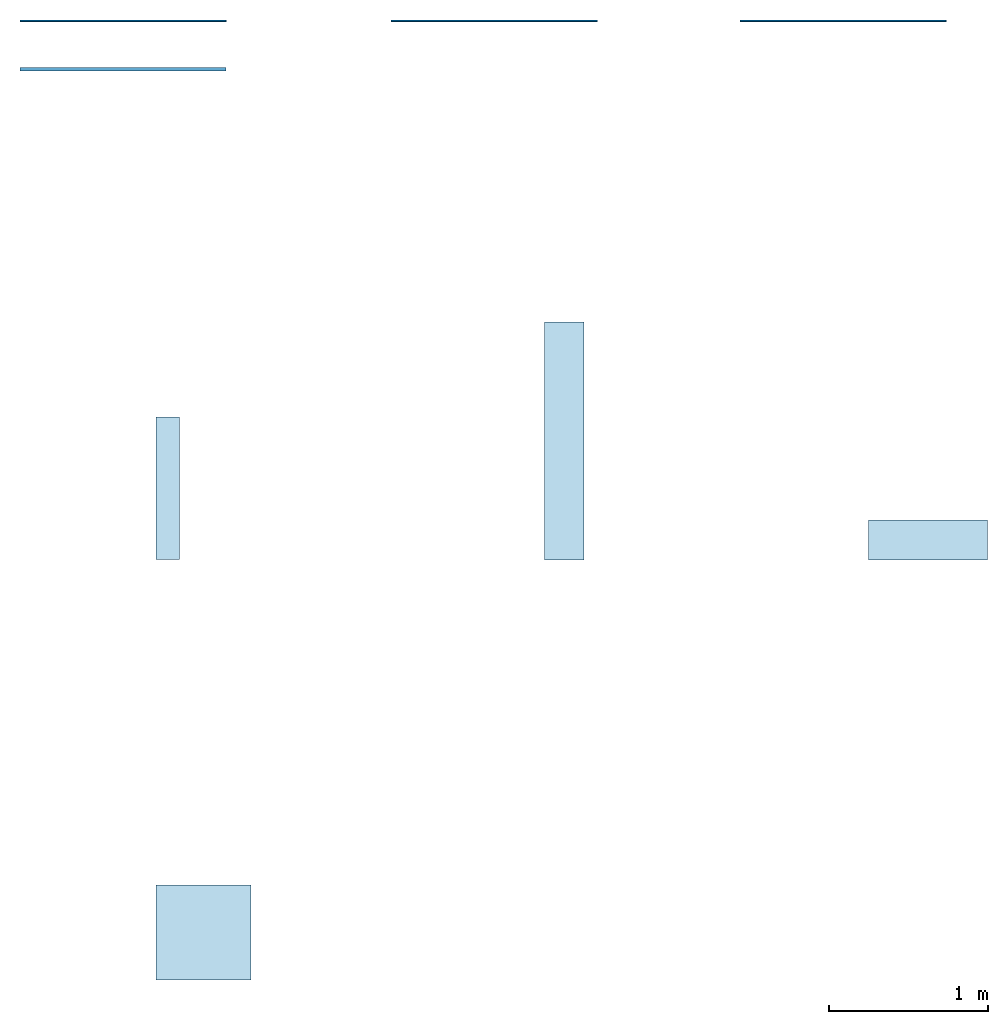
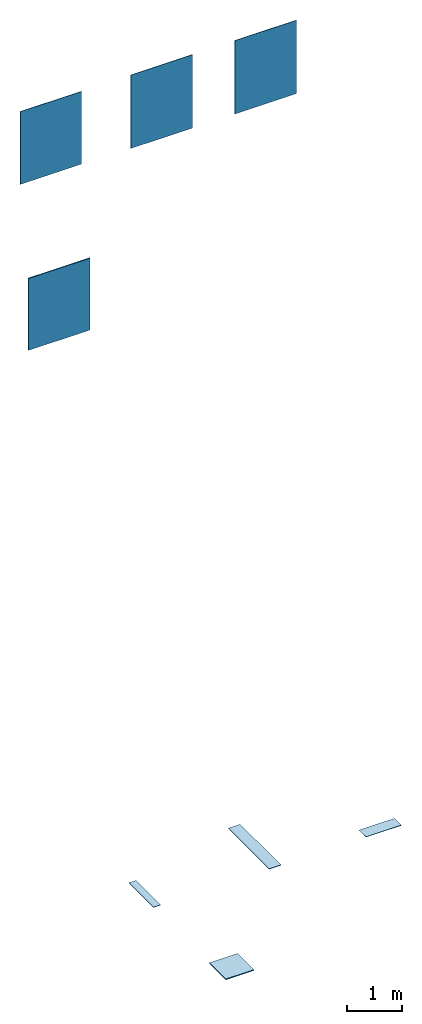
# One storey: 4 slabs, 4 walls.
"""IFC2X3 building model written with IfcOpenShell, lengths in millimetres."""

from ifc_helpers import new_model, entity, si_unit, converted_unit, derived_unit, direction, frame, frame_2d, origin, place, context, subcontext, project, spatial, rectangle, extrude, material, layer, layer_set, layer_usage, type_object, element, save


model = new_model("IFC2X3")

# Units and contexts
model_context = context("Model", 3, precision=0.01, world=origin(), true_north=direction((6.12303176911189e-17, 1.0)))
body_context = subcontext(model_context, "Body", "Model", "MODEL_VIEW")
ifc_project = project(units=[si_unit("LENGTHUNIT", "METRE", prefix="MILLI"), si_unit("AREAUNIT", "SQUARE_METRE"), si_unit("VOLUMEUNIT", "CUBIC_METRE"), converted_unit("PLANEANGLEUNIT", "DEGREE", entity("IfcRatioMeasure", 0.0174532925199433), si_unit("PLANEANGLEUNIT", "RADIAN"), dimensions=[0, 0, 0, 0, 0, 0, 0]), si_unit("MASSUNIT", "GRAM", prefix="KILO"), derived_unit("MASSDENSITYUNIT", [(si_unit("MASSUNIT", "GRAM", prefix="KILO"), 1), (si_unit("LENGTHUNIT", "METRE"), -3)]), derived_unit("MOMENTOFINERTIAUNIT", [(si_unit("LENGTHUNIT", "METRE"), 4)]), si_unit("TIMEUNIT", "SECOND"), si_unit("FREQUENCYUNIT", "HERTZ"), si_unit("THERMODYNAMICTEMPERATUREUNIT", "DEGREE_CELSIUS"), derived_unit("THERMALTRANSMITTANCEUNIT", [(si_unit("MASSUNIT", "GRAM", prefix="KILO"), 1), (si_unit("THERMODYNAMICTEMPERATUREUNIT", "KELVIN"), -1), (si_unit("TIMEUNIT", "SECOND"), -3)]), derived_unit("VOLUMETRICFLOWRATEUNIT", [(si_unit("LENGTHUNIT", "METRE"), 3), (si_unit("TIMEUNIT", "SECOND"), -1)]), si_unit("ELECTRICCURRENTUNIT", "AMPERE"), si_unit("ELECTRICVOLTAGEUNIT", "VOLT"), si_unit("POWERUNIT", "WATT"), si_unit("FORCEUNIT", "NEWTON", prefix="KILO"), si_unit("ILLUMINANCEUNIT", "LUX"), si_unit("LUMINOUSFLUXUNIT", "LUMEN"), si_unit("LUMINOUSINTENSITYUNIT", "CANDELA"), derived_unit("USERDEFINED", [(si_unit("MASSUNIT", "GRAM", prefix="KILO"), -1), (si_unit("LENGTHUNIT", "METRE"), -2), (si_unit("TIMEUNIT", "SECOND"), 3), (si_unit("LUMINOUSFLUXUNIT", "LUMEN"), 1)]), derived_unit("LINEARVELOCITYUNIT", [(si_unit("LENGTHUNIT", "METRE"), 1), (si_unit("TIMEUNIT", "SECOND"), -1)]), si_unit("PRESSUREUNIT", "PASCAL"), derived_unit("USERDEFINED", [(si_unit("LENGTHUNIT", "METRE"), -2), (si_unit("MASSUNIT", "GRAM", prefix="KILO"), 1), (si_unit("TIMEUNIT", "SECOND"), -2)]), derived_unit("LINEARFORCEUNIT", [(si_unit("MASSUNIT", "GRAM", prefix="KILO"), 1), (si_unit("LENGTHUNIT", "METRE"), 1), (si_unit("TIMEUNIT", "SECOND"), -2), (si_unit("LENGTHUNIT", "METRE"), -1)]), derived_unit("PLANARFORCEUNIT", [(si_unit("MASSUNIT", "GRAM", prefix="KILO"), 1), (si_unit("LENGTHUNIT", "METRE"), 1), (si_unit("TIMEUNIT", "SECOND"), -2), (si_unit("LENGTHUNIT", "METRE"), -2)])], contexts=[model_context])

# Site, building, storey
site_placement = place(None, origin())
site = spatial("IfcSite", under=ifc_project, at=site_placement, Name="Default", CompositionType="ELEMENT")
building_placement = place(site_placement, origin())
building = spatial("IfcBuilding", under=site, at=building_placement, CompositionType="ELEMENT")
storey_placement = place(building_placement, origin())
storey = spatial("IfcBuildingStorey", under=building, at=storey_placement, Name="Level 0", CompositionType="ELEMENT", Elevation=0.0)

# Slabs
ifc_material_1 = material(Name="Larix-Shade-15x90 OB53")
ifc_layer_1 = layer(ifc_material_1, 9.0)
ifc_material_2 = material(Name="<Unnamed>")
ifc_layer_2 = layer(ifc_material_2, 1.0)
ifc_layer_set_1 = layer_set([ifc_layer_1, ifc_layer_2], Name="Floor:Floor_Tiles_Refin-Larix-Shade-15x90 OB53")
ifc_layer_usage_1 = layer_usage(ifc_layer_set_1, "AXIS3", "POSITIVE", 0.0)
slab_type_1 = type_object("IfcSlabType", Name="Floor:Floor_Tiles_Refin-Larix-Shade-15x90 OB53", PredefinedType="FLOOR", material=ifc_layer_set_1)
slab_1_placement = place(storey_placement, origin())
element("IfcSlab", 1, at=slab_1_placement, inside=storey, type_object=slab_type_1, material=ifc_layer_usage_1, Name="Floor:Floor_Tiles_Refin-Larix-Shade-15x90 OB53", ObjectType="Floor:Floor_Tiles_Refin-Larix-Shade-15x90 OB53", PredefinedType="FLOOR", context=body_context, shape_type="SweptSolid", body=[
    extrude(rectangle(XDim=900.0, YDim=150.000000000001, at=frame_2d((5.40012479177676e-13, 0.0), x_axis=(1.0, 0.0))), frame((6849.37520617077, 5189.4623742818, 0.0), z_axis=(0.0, 0.0, -1.0), x_axis=(0.0, 1.0, 0.0)), (0.0, 0.0, 1.0), 10.0),
])
ifc_material_3 = material(Name="Larix-Shade-25x150 LE11")
ifc_layer_3 = layer(ifc_material_3, 9.0)
ifc_layer_4 = layer(ifc_material_2, 1.0)
ifc_layer_set_2 = layer_set([ifc_layer_3, ifc_layer_4], Name="Floor:Floor_Tiles_Refin-Larix-Shade-25x150 LE11")
ifc_layer_usage_2 = layer_usage(ifc_layer_set_2, "AXIS3", "POSITIVE", 0.0)
slab_type_2 = type_object("IfcSlabType", Name="Floor:Floor_Tiles_Refin-Larix-Shade-25x150 LE11", PredefinedType="FLOOR", material=ifc_layer_set_2)
slab_2_placement = place(storey_placement, origin())
element("IfcSlab", 2, at=slab_2_placement, inside=storey, type_object=slab_type_2, material=ifc_layer_usage_2, Name="Floor:Floor_Tiles_Refin-Larix-Shade-25x150 LE11", ObjectType="Floor:Floor_Tiles_Refin-Larix-Shade-25x150 LE11", PredefinedType="FLOOR", context=body_context, shape_type="SweptSolid", body=[
    extrude(rectangle(XDim=1500.0, YDim=249.999999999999, at=frame_2d((-5.11590769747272e-13, 0.0), x_axis=(1.0, 0.0))), frame((9349.37520617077, 5488.41920639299, 0.0), z_axis=(0.0, 0.0, -1.0), x_axis=(0.0, 1.0, 0.0)), (0.0, 0.0, 1.0), 10.0),
])
ifc_material_4 = material(Name="Larix-Shade-Muretto-25x75 LF54")
ifc_layer_5 = layer(ifc_material_4, 9.0)
ifc_layer_6 = layer(ifc_material_2, 1.0)
ifc_layer_set_3 = layer_set([ifc_layer_5, ifc_layer_6], Name="Floor:Floor_Tiles_Refin-Larix-Shade-Muretto-25x75 LF54")
ifc_layer_usage_3 = layer_usage(ifc_layer_set_3, "AXIS3", "POSITIVE", 0.0)
slab_type_3 = type_object("IfcSlabType", Name="Floor:Floor_Tiles_Refin-Larix-Shade-Muretto-25x75 LF54", PredefinedType="FLOOR", material=ifc_layer_set_3)
slab_3_placement = place(storey_placement, origin())
element("IfcSlab", 3, at=slab_3_placement, inside=storey, type_object=slab_type_3, material=ifc_layer_usage_3, Name="Floor:Floor_Tiles_Refin-Larix-Shade-Muretto-25x75 LF54", ObjectType="Floor:Floor_Tiles_Refin-Larix-Shade-Muretto-25x75 LF54", PredefinedType="FLOOR", context=body_context, shape_type="SweptSolid", body=[
    extrude(rectangle(XDim=250.000000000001, YDim=750.000000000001, at=frame_2d((-5.40012479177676e-13, -1.08002495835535e-12), x_axis=(1.0, 0.0))), frame((11642.3924054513, 4863.41920639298, 0.0), z_axis=(0.0, 0.0, -1.0), x_axis=(0.0, 1.0, 0.0)), (0.0, 0.0, 1.0), 10.0),
])
ifc_material_5 = material(Name="Larix-Shade-OUT2.0-60x60 LQ03")
ifc_layer_7 = layer(ifc_material_5, 20.0)
ifc_layer_8 = layer(ifc_material_2, 1.0)
ifc_layer_set_4 = layer_set([ifc_layer_7, ifc_layer_8], Name="Floor:Floor_Tiles_Refin-Larix-Shade-OUT2.0-60x60 LQ03")
ifc_layer_usage_4 = layer_usage(ifc_layer_set_4, "AXIS3", "POSITIVE", 0.0)
slab_type_4 = type_object("IfcSlabType", Name="Floor:Floor_Tiles_Refin-Larix-Shade-OUT2.0-60x60 LQ03", PredefinedType="FLOOR", material=ifc_layer_set_4)
slab_4_placement = place(storey_placement, origin())
element("IfcSlab", 4, at=slab_4_placement, inside=storey, type_object=slab_type_4, material=ifc_layer_usage_4, Name="Floor:Floor_Tiles_Refin-Larix-Shade-OUT2.0-60x60 LQ03", ObjectType="Floor:Floor_Tiles_Refin-Larix-Shade-OUT2.0-60x60 LQ03", PredefinedType="FLOOR", context=body_context, shape_type="SweptSolid", body=[
    extrude(rectangle(XDim=600.0, YDim=600.0, at=frame_2d((0.0, 1.08002495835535e-12), x_axis=(1.0, 0.0))), frame((7074.37520617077, 2389.46237428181, 0.0), z_axis=(0.0, 0.0, -1.0), x_axis=(0.0, 1.0, 0.0)), (0.0, 0.0, 1.0), 21.0),
])

# Walls
ifc_layer_9 = layer(ifc_material_2, 1.0)
ifc_layer_10 = layer(ifc_material_3, 9.0)
ifc_layer_set_5 = layer_set([ifc_layer_9, ifc_layer_10], Name="Basic Wall:Wall_Tiles_Refin-Larix-Shade-25x150 LE11")
ifc_layer_usage_5 = layer_usage(ifc_layer_set_5, "AXIS2", "NEGATIVE", 5.0)
wall_type_1 = type_object("IfcWallType", Name="Basic Wall:Wall_Tiles_Refin-Larix-Shade-25x150 LE11", PredefinedType="STANDARD", material=ifc_layer_set_5)
wall_1_placement = place(storey_placement, frame((8257.37520617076, 8137.38386313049, 14387.6770443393)))
element("IfcWallStandardCase", 5, at=wall_1_placement, inside=storey, type_object=wall_type_1, material=ifc_layer_usage_5, Name="Basic Wall:Wall_Tiles_Refin-Larix-Shade-25x150 LE11", ObjectType="Basic Wall:Wall_Tiles_Refin-Larix-Shade-25x150 LE11", context=body_context, shape_type="SweptSolid", body=[
    extrude(rectangle(XDim=1300.0, YDim=9.99999999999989, at=frame_2d((650.0, 7.63833440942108e-14), x_axis=(-1.0, 0.0))), origin(), (0.0, 0.0, 1.0), 1641.74173522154),
])
ifc_layer_11 = layer(ifc_material_2, 1.0)
ifc_layer_12 = layer(ifc_material_4, 9.0)
ifc_layer_set_6 = layer_set([ifc_layer_11, ifc_layer_12], Name="Basic Wall:Wall_Tiles_Refin-Larix-Shade-Muretto-25x75 LF54")
ifc_layer_usage_6 = layer_usage(ifc_layer_set_6, "AXIS2", "NEGATIVE", 5.0)
wall_type_2 = type_object("IfcWallType", Name="Basic Wall:Wall_Tiles_Refin-Larix-Shade-Muretto-25x75 LF54", PredefinedType="STANDARD", material=ifc_layer_set_6)
wall_2_placement = place(storey_placement, frame((10457.3752061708, 8137.38386313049, 14387.6770443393)))
element("IfcWallStandardCase", 6, at=wall_2_placement, inside=storey, type_object=wall_type_2, material=ifc_layer_usage_6, Name="Basic Wall:Wall_Tiles_Refin-Larix-Shade-Muretto-25x75 LF54", ObjectType="Basic Wall:Wall_Tiles_Refin-Larix-Shade-Muretto-25x75 LF54", context=body_context, shape_type="SweptSolid", body=[
    extrude(rectangle(XDim=1300.0, YDim=9.99999999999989, at=frame_2d((650.0, 7.63833440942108e-14), x_axis=(-1.0, 0.0))), origin(), (0.0, 0.0, 1.0), 1641.74173522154),
])
ifc_layer_13 = layer(ifc_material_2, 1.0)
ifc_layer_14 = layer(ifc_material_1, 9.0)
ifc_layer_set_7 = layer_set([ifc_layer_13, ifc_layer_14], Name="Basic Wall:Wall_Tiles_Refin-Larix-Shade-15x90 OB53")
ifc_layer_usage_7 = layer_usage(ifc_layer_set_7, "AXIS2", "NEGATIVE", 5.0)
wall_type_3 = type_object("IfcWallType", Name="Basic Wall:Wall_Tiles_Refin-Larix-Shade-15x90 OB53", PredefinedType="STANDARD", material=ifc_layer_set_7)
wall_3_placement = place(storey_placement, frame((5917.37520617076, 8137.38386313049, 14403.726734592)))
element("IfcWallStandardCase", 7, at=wall_3_placement, inside=storey, type_object=wall_type_3, material=ifc_layer_usage_7, Name="Basic Wall:Wall_Tiles_Refin-Larix-Shade-15x90 OB53", ObjectType="Basic Wall:Wall_Tiles_Refin-Larix-Shade-15x90 OB53", context=body_context, shape_type="SweptSolid", body=[
    extrude(rectangle(XDim=1300.0, YDim=9.99999999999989, at=frame_2d((650.0, 7.63833440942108e-14), x_axis=(-1.0, 0.0))), origin(), (0.0, 0.0, 1.0), 1625.69204496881),
])
ifc_layer_15 = layer(ifc_material_2, 1.0)
ifc_layer_16 = layer(ifc_material_5, 20.0)
ifc_layer_set_8 = layer_set([ifc_layer_15, ifc_layer_16], Name="Basic Wall:Wall_Tiles_Refin-Larix-Shade-OUT2.0-60x60 LQ03")
ifc_layer_usage_8 = layer_usage(ifc_layer_set_8, "AXIS2", "NEGATIVE", 10.5)
wall_type_4 = type_object("IfcWallType", Name="Basic Wall:Wall_Tiles_Refin-Larix-Shade-OUT2.0-60x60 LQ03", PredefinedType="STANDARD", material=ifc_layer_set_8)
wall_4_placement = place(storey_placement, frame((5917.37520617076, 7832.38386313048, 10881.6087573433)))
element("IfcWallStandardCase", 8, at=wall_4_placement, inside=storey, type_object=wall_type_4, material=ifc_layer_usage_8, Name="Basic Wall:Wall_Tiles_Refin-Larix-Shade-OUT2.0-60x60 LQ03", ObjectType="Basic Wall:Wall_Tiles_Refin-Larix-Shade-OUT2.0-60x60 LQ03", context=body_context, shape_type="SweptSolid", body=[
    extrude(rectangle(XDim=1300.0, YDim=20.9999999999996, at=frame_2d((650.0, 0.0), x_axis=(-1.0, 0.0))), origin(), (0.0, 0.0, 1.0), 1607.0032015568),
])

save(model, "model.ifc")
